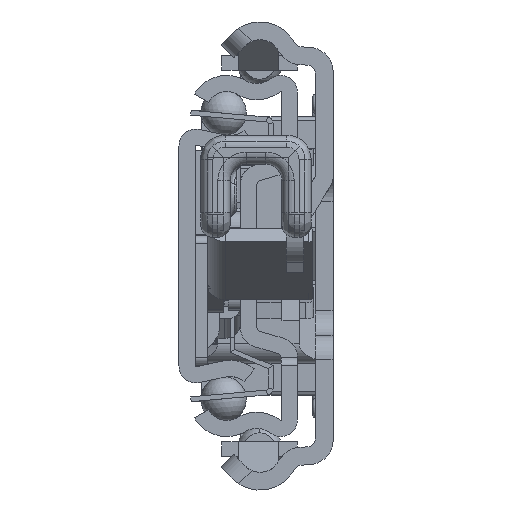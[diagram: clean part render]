
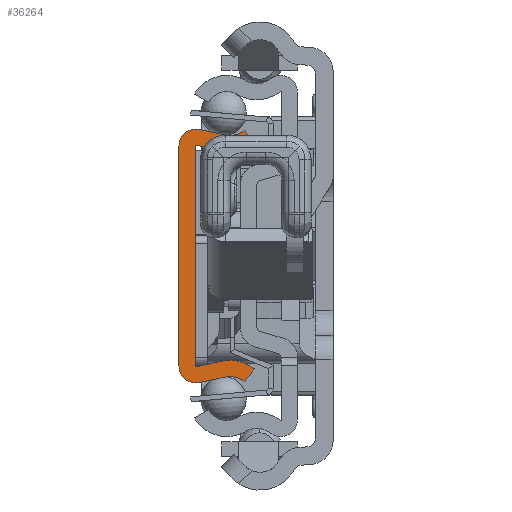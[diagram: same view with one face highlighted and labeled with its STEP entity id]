
A CAD part, left-side view. The second image highlights one B-rep face of the part: STEP entity #36264.
In plain terms, the highlighted planar face has unit normal (-1, 0, 0).
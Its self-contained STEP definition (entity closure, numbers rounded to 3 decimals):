
#32326=CARTESIAN_POINT('',(0.,-6.29,-17.65));
#32327=DIRECTION('',(-1.,0.,0.));
#32328=DIRECTION('',(0.,-0.629,0.778));
#32329=AXIS2_PLACEMENT_3D('',#32326,#32327,#32328);
#32331=DIRECTION('',(0.,0.977,-0.213));
#32332=VECTOR('',#32331,3.218);
#32333=CARTESIAN_POINT('',(0.,-5.692,-14.915));
#32334=LINE('',#32333,#32332);
#32335=CARTESIAN_POINT('',(0.,-2.1,-13.55));
#32336=DIRECTION('',(1.,0.,0.));
#32337=DIRECTION('',(0.,-0.213,-0.977));
#32338=AXIS2_PLACEMENT_3D('',#32335,#32336,#32337);
#32340=DIRECTION('',(0.,0.,1.));
#32341=VECTOR('',#32340,27.1);
#32342=CARTESIAN_POINT('',(0.,0.,-13.55));
#32343=LINE('',#32342,#32341);
#32344=CARTESIAN_POINT('',(0.,-2.1,13.55));
#32345=DIRECTION('',(1.,0.,0.));
#32346=DIRECTION('',(0.,1.,0.));
#32347=AXIS2_PLACEMENT_3D('',#32344,#32345,#32346);
#32349=DIRECTION('',(0.,-0.977,-0.213));
#32350=VECTOR('',#32349,3.218);
#32351=CARTESIAN_POINT('',(0.,-2.548,15.602));
#32352=LINE('',#32351,#32350);
#32353=CARTESIAN_POINT('',(0.,-6.29,17.65));
#32354=DIRECTION('',(-1.,0.,0.));
#32355=DIRECTION('',(0.,0.213,-0.977));
#32356=AXIS2_PLACEMENT_3D('',#32353,#32354,#32355);
#32358=DIRECTION('',(0.,-0.629,-0.778));
#32359=VECTOR('',#32358,2.);
#32360=CARTESIAN_POINT('',(0.,-8.05,15.472));
#32361=LINE('',#32360,#32359);
#32362=CARTESIAN_POINT('',(0.,-6.29,17.65));
#32363=DIRECTION('',(1.,0.,0.));
#32364=DIRECTION('',(0.,-0.629,-0.778));
#32365=AXIS2_PLACEMENT_3D('',#32362,#32363,#32364);
#32367=DIRECTION('',(0.,0.977,0.213));
#32368=VECTOR('',#32367,3.218);
#32369=CARTESIAN_POINT('',(0.,-5.265,12.961));
#32370=LINE('',#32369,#32368);
#32371=CARTESIAN_POINT('',(0.,-2.1,13.55));
#32372=DIRECTION('',(-1.,0.,0.));
#32373=DIRECTION('',(0.,-0.213,0.977));
#32374=AXIS2_PLACEMENT_3D('',#32371,#32372,#32373);
#32376=DIRECTION('',(0.,0.,-1.));
#32377=VECTOR('',#32376,27.1);
#32378=CARTESIAN_POINT('',(0.,-2.,13.55));
#32379=LINE('',#32378,#32377);
#32380=CARTESIAN_POINT('',(0.,-2.1,-13.55));
#32381=DIRECTION('',(-1.,0.,0.));
#32382=DIRECTION('',(0.,1.,0.));
#32383=AXIS2_PLACEMENT_3D('',#32380,#32381,#32382);
#32385=DIRECTION('',(0.,-0.977,0.213));
#32386=VECTOR('',#32385,3.218);
#32387=CARTESIAN_POINT('',(0.,-2.121,-13.648));
#32388=LINE('',#32387,#32386);
#32389=CARTESIAN_POINT('',(0.,-6.29,-17.65));
#32390=DIRECTION('',(1.,0.,0.));
#32391=DIRECTION('',(0.,0.213,0.977));
#32392=AXIS2_PLACEMENT_3D('',#32389,#32390,#32391);
#32394=DIRECTION('',(0.,0.629,-0.778));
#32395=VECTOR('',#32394,2.);
#32396=CARTESIAN_POINT('',(0.,-9.307,-13.917));
#32397=LINE('',#32396,#32395);
#35575=CARTESIAN_POINT('',(0.,-8.05,-15.472));
#35576=CARTESIAN_POINT('',(0.,-5.692,-14.915));
#35577=VERTEX_POINT('',#35575);
#35578=VERTEX_POINT('',#35576);
#35579=CARTESIAN_POINT('',(0.,-2.548,-15.602));
#35580=VERTEX_POINT('',#35579);
#35581=CARTESIAN_POINT('',(0.,0.,-13.55));
#35582=VERTEX_POINT('',#35581);
#35583=CARTESIAN_POINT('',(0.,0.,13.55));
#35584=VERTEX_POINT('',#35583);
#35585=CARTESIAN_POINT('',(0.,-2.548,15.602));
#35586=VERTEX_POINT('',#35585);
#35587=CARTESIAN_POINT('',(0.,-5.692,14.915));
#35588=VERTEX_POINT('',#35587);
#35589=CARTESIAN_POINT('',(0.,-8.05,15.472));
#35590=VERTEX_POINT('',#35589);
#35591=CARTESIAN_POINT('',(0.,-9.307,13.917));
#35592=VERTEX_POINT('',#35591);
#35593=CARTESIAN_POINT('',(0.,-5.265,12.961));
#35594=VERTEX_POINT('',#35593);
#35595=CARTESIAN_POINT('',(0.,-2.121,13.648));
#35596=VERTEX_POINT('',#35595);
#35597=CARTESIAN_POINT('',(0.,-2.,13.55));
#35598=VERTEX_POINT('',#35597);
#35599=CARTESIAN_POINT('',(0.,-2.,-13.55));
#35600=VERTEX_POINT('',#35599);
#35601=CARTESIAN_POINT('',(0.,-2.121,-13.648));
#35602=VERTEX_POINT('',#35601);
#35603=CARTESIAN_POINT('',(0.,-5.265,-12.961));
#35604=VERTEX_POINT('',#35603);
#35605=CARTESIAN_POINT('',(0.,-9.307,-13.917));
#35606=VERTEX_POINT('',#35605);
#36225=CARTESIAN_POINT('',(0.,0.,0.));
#36226=DIRECTION('',(1.,0.,0.));
#36227=DIRECTION('',(0.,-1.,0.));
#36228=AXIS2_PLACEMENT_3D('',#36225,#36226,#36227);
#36229=PLANE('',#36228);
#36231=ORIENTED_EDGE('',*,*,#36230,.T.);
#36233=ORIENTED_EDGE('',*,*,#36232,.T.);
#36235=ORIENTED_EDGE('',*,*,#36234,.T.);
#36237=ORIENTED_EDGE('',*,*,#36236,.T.);
#36239=ORIENTED_EDGE('',*,*,#36238,.T.);
#36241=ORIENTED_EDGE('',*,*,#36240,.T.);
#36243=ORIENTED_EDGE('',*,*,#36242,.T.);
#36245=ORIENTED_EDGE('',*,*,#36244,.T.);
#36247=ORIENTED_EDGE('',*,*,#36246,.T.);
#36249=ORIENTED_EDGE('',*,*,#36248,.T.);
#36251=ORIENTED_EDGE('',*,*,#36250,.T.);
#36253=ORIENTED_EDGE('',*,*,#36252,.T.);
#36255=ORIENTED_EDGE('',*,*,#36254,.T.);
#36257=ORIENTED_EDGE('',*,*,#36256,.T.);
#36259=ORIENTED_EDGE('',*,*,#36258,.T.);
#36261=ORIENTED_EDGE('',*,*,#36260,.T.);
#36262=EDGE_LOOP('',(#36231,#36233,#36235,#36237,#36239,#36241,#36243,#36245,
#36247,#36249,#36251,#36253,#36255,#36257,#36259,#36261));
#36263=FACE_OUTER_BOUND('',#36262,.F.);
#32330=CIRCLE('',#32329,2.8);
#32339=CIRCLE('',#32338,2.1);
#32348=CIRCLE('',#32347,2.1);
#32357=CIRCLE('',#32356,2.8);
#32366=CIRCLE('',#32365,4.8);
#32375=CIRCLE('',#32374,0.1);
#32384=CIRCLE('',#32383,0.1);
#32393=CIRCLE('',#32392,4.8);
#36230=EDGE_CURVE('',#35577,#35578,#32330,.T.);
#36232=EDGE_CURVE('',#35578,#35580,#32334,.T.);
#36234=EDGE_CURVE('',#35580,#35582,#32339,.T.);
#36236=EDGE_CURVE('',#35582,#35584,#32343,.T.);
#36238=EDGE_CURVE('',#35584,#35586,#32348,.T.);
#36240=EDGE_CURVE('',#35586,#35588,#32352,.T.);
#36242=EDGE_CURVE('',#35588,#35590,#32357,.T.);
#36244=EDGE_CURVE('',#35590,#35592,#32361,.T.);
#36246=EDGE_CURVE('',#35592,#35594,#32366,.T.);
#36248=EDGE_CURVE('',#35594,#35596,#32370,.T.);
#36250=EDGE_CURVE('',#35596,#35598,#32375,.T.);
#36252=EDGE_CURVE('',#35598,#35600,#32379,.T.);
#36254=EDGE_CURVE('',#35600,#35602,#32384,.T.);
#36256=EDGE_CURVE('',#35602,#35604,#32388,.T.);
#36258=EDGE_CURVE('',#35604,#35606,#32393,.T.);
#36260=EDGE_CURVE('',#35606,#35577,#32397,.T.);
#36264=ADVANCED_FACE('',(#36263),#36229,.F.);
